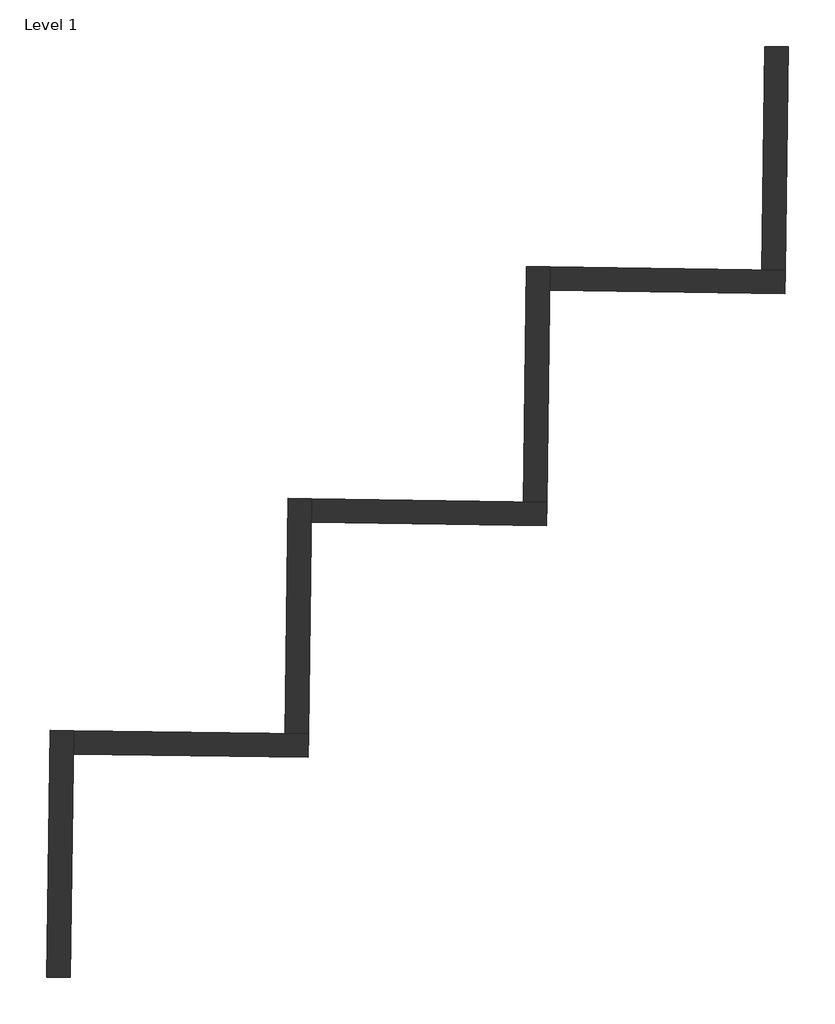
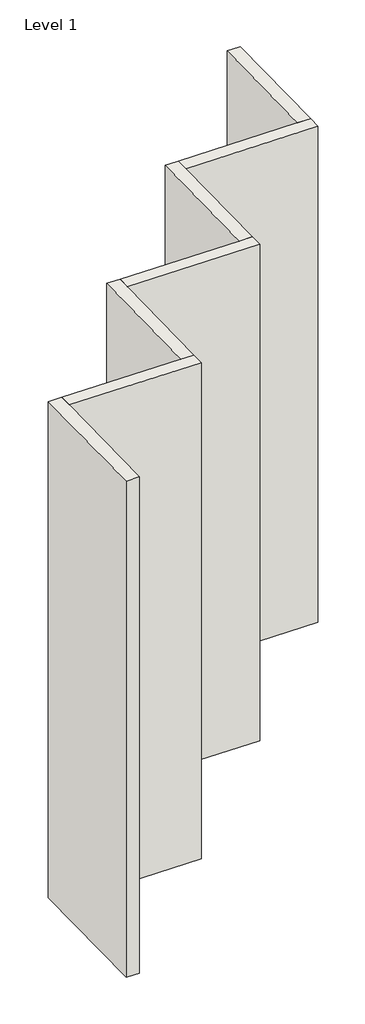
# One storey: 7 walls.
"""IFC4 building model written with IfcOpenShell, lengths in millimetres."""

from ifc_helpers import new_model, si_unit, origin, origin_with_axes, place, context, project, spatial, polyline, outline, extrude, faceted_brep, element, save

model = new_model("IFC4")

# Units and contexts
model_context = context("Model", 3, world=origin())
ifc_project = project(units=[si_unit("LENGTHUNIT", "METRE", prefix="MILLI")], contexts=[model_context])

# Site, building, storey
site = spatial("IfcSite", under=ifc_project)
building = spatial("IfcBuilding", under=site)
storey = spatial("IfcBuildingStorey", under=building, Name="Level 1", Elevation=0.0)

# Walls
placement = place(None, origin())
element("IfcWall", 1, ObjectType="Generic - 200mm", at=placement, inside=storey, context=model_context, shape_type="Brep", body=[
    faceted_brep([(7925.4289563, -17312.8710254, 0.0), (7952.2438346, -15413.0602553, 0.0), (7955.0664534, -15213.0801742, 0.0), (7955.0664534, -15213.0801742, 8000.0), (7952.2438346, -15413.0602553, 8000.0), (7925.4289563, -17312.8710254, 8000.0), (7725.4488752, -17310.0484067, 0.0), (7725.4488752, -17310.0484067, 8000.0), (7755.0863723, -15210.2575555, 8000.0), (7755.0863723, -15210.2575555, 0.0)], [[[0, 1, 2, 3, 4, 5]], [[6, 7, 8, 9]], [[2, 1, 0, 6, 9]], [[5, 4, 3, 8, 7]], [[0, 5, 7, 6]], [[3, 2, 9, 8]]]),
])
element("IfcWall", 2, ObjectType="Generic - 200mm", at=placement, inside=storey, context=model_context, shape_type="Brep", body=[
    faceted_brep([(7952.2438346, -15413.0602553, 0.0), (9952.0446453, -15441.286443, 0.0), (9952.0446453, -15441.286443, 8000.0), (7952.2438346, -15413.0602553, 8000.0), (7955.0664534, -15213.0801742, 0.0), (7955.0664534, -15213.0801742, 8000.0), (9754.887183, -15238.4837432, 8000.0), (9954.867264, -15241.3063619, 8000.0), (9954.867264, -15241.3063619, 0.0), (9754.887183, -15238.4837432, 0.0)], [[[0, 1, 2, 3]], [[4, 5, 6, 7, 8, 9]], [[1, 0, 4, 9, 8]], [[3, 2, 7, 6, 5]], [[0, 3, 5, 4]], [[2, 1, 8, 7]]]),
])
element("IfcWall", 3, ObjectType="Generic - 200mm", at=placement, inside=storey, context=model_context, shape_type="Brep", body=[
    faceted_brep([(9954.867264, -15241.3063619, 0.0), (9980.2708329, -13441.4856323, 0.0), (9983.0934517, -13241.5055513, 0.0), (9983.0934517, -13241.5055513, 8000.0), (9980.2708329, -13441.4856323, 8000.0), (9954.867264, -15241.3063619, 8000.0), (9754.887183, -15238.4837432, 0.0), (9754.887183, -15238.4837432, 8000.0), (9783.1133706, -13238.6829325, 8000.0), (9783.1133706, -13238.6829325, 0.0)], [[[0, 1, 2, 3, 4, 5]], [[6, 7, 8, 9]], [[2, 1, 0, 6, 9]], [[5, 4, 3, 8, 7]], [[0, 5, 7, 6]], [[3, 2, 9, 8]]]),
])
element("IfcWall", 4, ObjectType="Generic - 200mm", at=placement, inside=storey, context=model_context, shape_type="Brep", body=[
    faceted_brep([(9980.2708329, -13441.4856323, 0.0), (11980.0716436, -13469.71182, 0.0), (11980.0716436, -13469.71182, 8000.0), (9980.2708329, -13441.4856323, 8000.0), (9983.0934517, -13241.5055513, 0.0), (9983.0934517, -13241.5055513, 8000.0), (11782.9141813, -13266.9091202, 8000.0), (11982.8942624, -13269.731739, 8000.0), (11982.8942624, -13269.731739, 0.0), (11782.9141813, -13266.9091202, 0.0)], [[[0, 1, 2, 3]], [[4, 5, 6, 7, 8, 9]], [[1, 0, 4, 9, 8]], [[3, 2, 7, 6, 5]], [[0, 3, 5, 4]], [[2, 1, 8, 7]]]),
])
element("IfcWall", 5, ObjectType="Generic - 200mm", at=placement, inside=storey, context=model_context, shape_type="Brep", body=[
    faceted_brep([(11982.8942624, -13269.731739, 0.0), (12008.2978313, -11469.9110094, 0.0), (12011.1204501, -11269.9309283, 0.0), (12011.1204501, -11269.9309283, 8000.0), (12008.2978313, -11469.9110094, 8000.0), (11982.8942624, -13269.731739, 8000.0), (11782.9141813, -13266.9091202, 0.0), (11782.9141813, -13266.9091202, 8000.0), (11811.140369, -11267.1083095, 8000.0), (11811.140369, -11267.1083095, 0.0)], [[[0, 1, 2, 3, 4, 5]], [[6, 7, 8, 9]], [[2, 1, 0, 6, 9]], [[5, 4, 3, 8, 7]], [[0, 5, 7, 6]], [[3, 2, 9, 8]]]),
])
element("IfcWall", 6, ObjectType="Generic - 200mm", at=placement, inside=storey, context=model_context, shape_type="Brep", body=[
    faceted_brep([(12008.2978313, -11469.9110094, 0.0), (14008.098642, -11498.137197, 0.0), (14008.098642, -11498.137197, 8000.0), (12008.2978313, -11469.9110094, 8000.0), (12011.1204501, -11269.9309283, 0.0), (12011.1204501, -11269.9309283, 8000.0), (13810.9411797, -11295.3344972, 8000.0), (14010.9212607, -11298.157116, 8000.0), (14010.9212607, -11298.157116, 0.0), (13810.9411797, -11295.3344972, 0.0)], [[[0, 1, 2, 3]], [[4, 5, 6, 7, 8, 9]], [[1, 0, 4, 9, 8]], [[3, 2, 7, 6, 5]], [[0, 3, 5, 4]], [[2, 1, 8, 7]]]),
])
element("IfcWall", 7, ObjectType="Generic - 200mm", at=placement, inside=storey, context=model_context, shape_type="SweptSolid", body=[
    extrude(outline(polyline([(14037.736139, -9398.3463459), (14010.9212607, -11298.157116), (13810.9411797, -11295.3344972), (13837.756058, -9395.5237271), (14037.736139, -9398.3463459)])), origin_with_axes(), (0.0, 0.0, 1.0), 8000.0),
])

save(model, "model.ifc")
